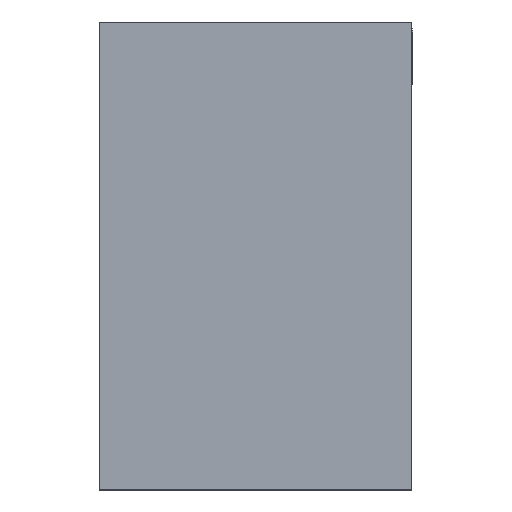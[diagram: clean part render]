
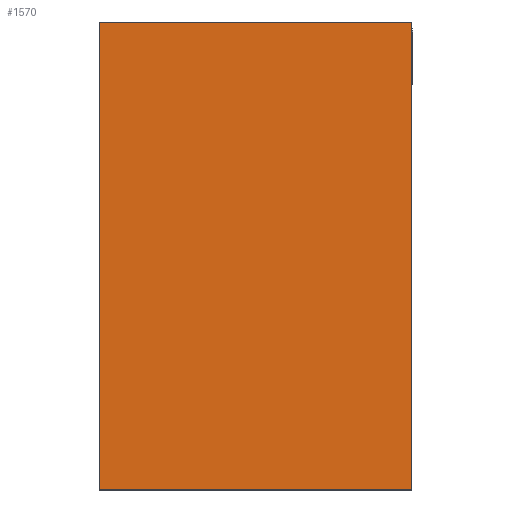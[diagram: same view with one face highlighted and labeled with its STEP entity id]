
A CAD part, left-side view. The second image highlights one B-rep face of the part: STEP entity #1570.
In plain terms, the highlighted planar face has unit normal (-1, 0, 0).
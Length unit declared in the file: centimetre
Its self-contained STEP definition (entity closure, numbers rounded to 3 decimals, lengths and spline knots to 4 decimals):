
#90=PLANE('',#1670);
#172=FACE_OUTER_BOUND('',#260,.T.);
#260=EDGE_LOOP('',(#1457,#1458,#1459,#1460));
#460=LINE('',#2498,#664);
#461=LINE('',#2501,#665);
#462=LINE('',#2503,#666);
#463=LINE('',#2504,#667);
#664=VECTOR('',#2058,6.);
#665=VECTOR('',#2061,9.);
#666=VECTOR('',#2062,9.);
#667=VECTOR('',#2063,6.);
#819=VERTEX_POINT('',#2494);
#820=VERTEX_POINT('',#2496);
#821=VERTEX_POINT('',#2500);
#822=VERTEX_POINT('',#2502);
#1036=EDGE_CURVE('',#819,#820,#460,.T.);
#1037=EDGE_CURVE('',#821,#819,#461,.T.);
#1038=EDGE_CURVE('',#822,#820,#462,.T.);
#1039=EDGE_CURVE('',#821,#822,#463,.T.);
#1457=ORIENTED_EDGE('',*,*,#1037,.T.);
#1458=ORIENTED_EDGE('',*,*,#1036,.T.);
#1459=ORIENTED_EDGE('',*,*,#1038,.F.);
#1460=ORIENTED_EDGE('',*,*,#1039,.F.);
#1570=ADVANCED_FACE('',(#172),#90,.T.);
#1670=AXIS2_PLACEMENT_3D('',#2499,#2059,#2060);
#2058=DIRECTION('',(0.,1.,0.));
#2059=DIRECTION('center_axis',(-1.,0.,0.));
#2060=DIRECTION('ref_axis',(0.,0.,1.));
#2061=DIRECTION('',(0.,0.,1.));
#2062=DIRECTION('',(0.,0.,1.));
#2063=DIRECTION('',(0.,1.,0.));
#2494=CARTESIAN_POINT('',(-15.,0.,9.));
#2496=CARTESIAN_POINT('',(-15.,6.,9.));
#2498=CARTESIAN_POINT('',(-15.,0.,9.));
#2499=CARTESIAN_POINT('Origin',(-15.,0.,0.));
#2500=CARTESIAN_POINT('',(-15.,0.,0.));
#2501=CARTESIAN_POINT('',(-15.,0.,0.));
#2502=CARTESIAN_POINT('',(-15.,6.,0.));
#2503=CARTESIAN_POINT('',(-15.,6.,0.));
#2504=CARTESIAN_POINT('',(-15.,0.,0.));
